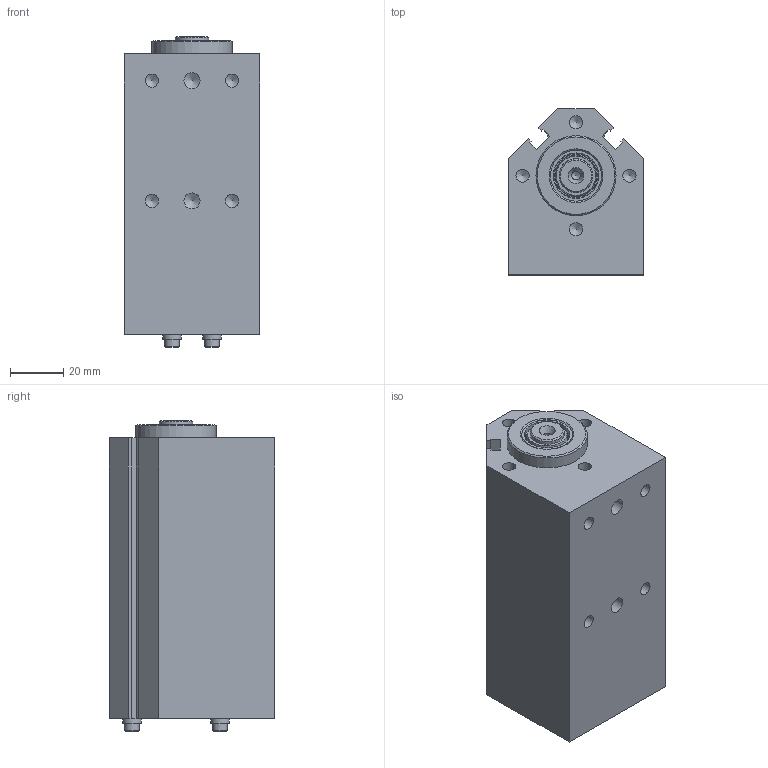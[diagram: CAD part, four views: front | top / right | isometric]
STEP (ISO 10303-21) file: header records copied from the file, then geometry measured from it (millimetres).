
FILE_DESCRIPTION(/* description */ (''),/* implementation_level */ '2;1');
FILE_NAME(/* name */ 'C:\Users\NNemeth\OneDrive - WELKER ENGINEERED PRODUCTS\BP1 Models\BP1XXXBXX00.stp',/* time_stamp */ '2022-07-11T17:00:40-04:00',/* author */ ('NNemeth'),/* organization */ (''),/* preprocessor_version */ 'ST-DEVELOPER v18',/* originating_system */ 'Autodesk Inventor 2020',/* authorisation */ '');
FILE_SCHEMA (('AUTOMOTIVE_DESIGN { 1 0 10303 214 3 1 1 }'));
Products named in the file (3): BP1_Assembly; BP1E02B; BP1 B NoSpring
Assembly tree (2 placements, depth 2):
  BP1_Assembly
    BP1E02B
    BP1 B NoSpring
Bounding box: 50.8 x 62 x 116.3 mm (x, y, z)
Volume: 257885.2 mm3; surface area: 47368.7 mm2
Topology: 2 solids, 10 shells, 183 faces, 485 edges, 330 vertices
Faces by surface type: plane 99, cylinder 48, cone 32, torus 4
Full cylindrical faces by diameter (mm): 2 x2, 2.459 x4, 3 x4, 3.175 x1, 3.4 x4, 4.917 x8, 5.5 x4, 6 x2, 7 x4, 8 x1, 12.7 x3, 15 x1, 16 x1, 17.05 x1, 17.069 x1, 19.05 x1, 28.677 x1, 29.21 x1, 30 x1, 31.75 x2, 31.826 x1
Entity records: 6130 total; most frequent: DIRECTION 1072, CARTESIAN_POINT 1063, ORIENTED_EDGE 940, EDGE_CURVE 470, AXIS2_PLACEMENT_3D 419, VERTEX_POINT 330, LINE 234, VECTOR 234
